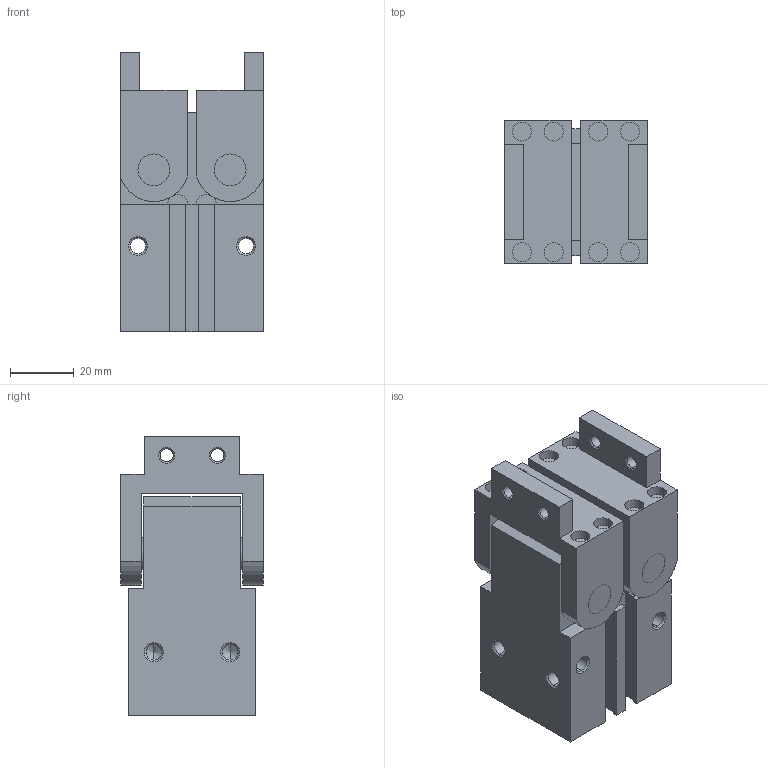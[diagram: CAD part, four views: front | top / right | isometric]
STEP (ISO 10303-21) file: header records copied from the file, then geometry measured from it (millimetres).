
FILE_DESCRIPTION (( 'STEP AP203' ), '1' );
FILE_NAME ('CHW2-25D1.STEP', '2020-04-02T13:34:03', ( '' ), ( '' ), 'SwSTEP 2.0', 'SolidWorks 2019', '' );
FILE_SCHEMA (( 'CONFIG_CONTROL_DESIGN' ));
Length unit declared in the file: millimetre
Products named in the file (1): CHW2-25D1
Bounding box: 45 x 45 x 88 mm (x, y, z)
Volume: 130735.3 mm3; surface area: 33548.6 mm2
Topology: 3 solids, 3 shells, 225 faces, 542 edges, 334 vertices
Faces by surface type: plane 97, cylinder 80, cone 48
Entity records: 6549 total; most frequent: DIRECTION 1178, CARTESIAN_POINT 1090, ORIENTED_EDGE 1060, EDGE_CURVE 530, AXIS2_PLACEMENT_3D 422, LINE 334, VECTOR 334, VERTEX_POINT 334
